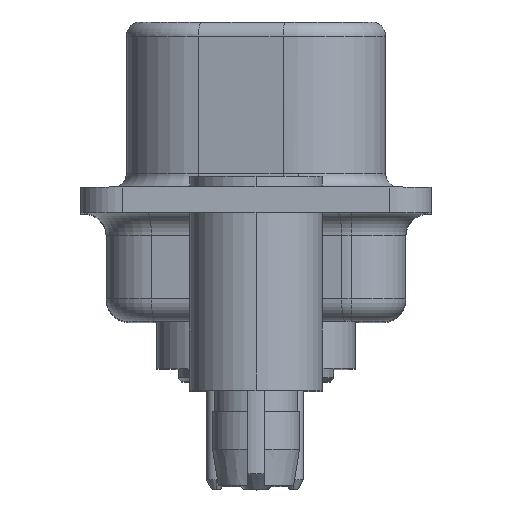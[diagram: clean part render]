
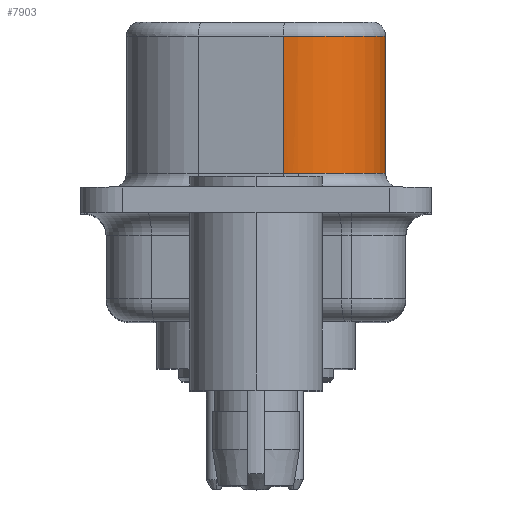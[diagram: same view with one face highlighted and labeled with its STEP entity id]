
A CAD part, top view. The second image highlights one B-rep face of the part: STEP entity #7903.
In plain terms, the highlighted cylindrical face has radius 3.124 mm (diameter 6.248 mm), a partial arc.
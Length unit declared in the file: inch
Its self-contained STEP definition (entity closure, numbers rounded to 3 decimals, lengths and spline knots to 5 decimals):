
#1 = EDGE_CURVE ( 'NONE', #20750, #20748, #10403, .T. ) ;
#6284 = CARTESIAN_POINT ( 'NONE',  ( 0.0595, 0.056, 0.51509 ) ) ;
#6285 = CARTESIAN_POINT ( 'NONE',  ( 0.1825, 0.056, 0.39209 ) ) ;
#7895 = EDGE_CURVE ( 'NONE', #7896, #7897, #16398, .T. ) ;
#7896 = VERTEX_POINT ( 'NONE', #16394 ) ;
#7897 = VERTEX_POINT ( 'NONE', #16393 ) ;
#7903 = ADVANCED_FACE ( 'NONE', ( #16431 ), #16412, .T. ) ;
#7904 = EDGE_LOOP ( 'NONE', ( #7960, #7963, #7965, #7966, #7968 ) ) ;
#7960 = ORIENTED_EDGE ( 'NONE', *, *, #7961, .F. ) ;
#7961 = EDGE_CURVE ( 'NONE', #7962, #20748, #16656, .T. ) ;
#7962 = VERTEX_POINT ( 'NONE', #16652 ) ;
#7963 = ORIENTED_EDGE ( 'NONE', *, *, #7964, .T. ) ;
#7964 = EDGE_CURVE ( 'NONE', #7962, #7896, #16651, .T. ) ;
#7965 = ORIENTED_EDGE ( 'NONE', *, *, #7895, .T. ) ;
#7966 = ORIENTED_EDGE ( 'NONE', *, *, #7967, .T. ) ;
#7967 = EDGE_CURVE ( 'NONE', #7897, #20750, #16645, .T. ) ;
#7968 = ORIENTED_EDGE ( 'NONE', *, *, #1, .T. ) ;
#10399 = DIRECTION ( 'NONE',  ( 0., 0., 1. ) ) ;
#10400 = DIRECTION ( 'NONE',  ( 0., 1., 0. ) ) ;
#10401 = CARTESIAN_POINT ( 'NONE',  ( 0.0595, 0.056, 0.39209 ) ) ;
#10402 = AXIS2_PLACEMENT_3D ( 'NONE', #10401, #10400, #10399 ) ;
#10403 = CIRCLE ( 'NONE', #10402, 0.123 ) ;
#16393 = CARTESIAN_POINT ( 'NONE',  ( 0.03814, 0.056, 0.51323 ) ) ;
#16394 = CARTESIAN_POINT ( 'NONE',  ( 0.03814, 0.249, 0.51323 ) ) ;
#16395 = DIRECTION ( 'NONE',  ( 0., -1., 0. ) ) ;
#16396 = VECTOR ( 'NONE', #16395, 39.37008 ) ;
#16397 = CARTESIAN_POINT ( 'NONE',  ( 0.03814, 0.269, 0.51323 ) ) ;
#16398 = LINE ( 'NONE', #16397, #16396 ) ;
#16412 = CYLINDRICAL_SURFACE ( 'NONE', #16466, 0.123 ) ;
#16413 = CARTESIAN_POINT ( 'NONE',  ( 0.0595, 0.269, 0.39209 ) ) ;
#16431 = FACE_OUTER_BOUND ( 'NONE', #7904, .T. ) ;
#16464 = DIRECTION ( 'NONE',  ( 0., 0., -1. ) ) ;
#16465 = DIRECTION ( 'NONE',  ( 0., -1., 0. ) ) ;
#16466 = AXIS2_PLACEMENT_3D ( 'NONE', #16413, #16465, #16464 ) ;
#16641 = DIRECTION ( 'NONE',  ( 0., 0., 1. ) ) ;
#16642 = DIRECTION ( 'NONE',  ( 0., 1., 0. ) ) ;
#16643 = CARTESIAN_POINT ( 'NONE',  ( 0.0595, 0.056, 0.39209 ) ) ;
#16644 = AXIS2_PLACEMENT_3D ( 'NONE', #16643, #16642, #16641 ) ;
#16645 = CIRCLE ( 'NONE', #16644, 0.123 ) ;
#16647 = DIRECTION ( 'NONE',  ( 0., 0., -1. ) ) ;
#16648 = DIRECTION ( 'NONE',  ( 0., -1., 0. ) ) ;
#16649 = CARTESIAN_POINT ( 'NONE',  ( 0.0595, 0.249, 0.39209 ) ) ;
#16650 = AXIS2_PLACEMENT_3D ( 'NONE', #16649, #16648, #16647 ) ;
#16651 = CIRCLE ( 'NONE', #16650, 0.123 ) ;
#16652 = CARTESIAN_POINT ( 'NONE',  ( 0.1825, 0.249, 0.39209 ) ) ;
#16653 = DIRECTION ( 'NONE',  ( 0., -1., 0. ) ) ;
#16654 = VECTOR ( 'NONE', #16653, 39.37008 ) ;
#16655 = CARTESIAN_POINT ( 'NONE',  ( 0.1825, 0.269, 0.39209 ) ) ;
#16656 = LINE ( 'NONE', #16655, #16654 ) ;
#20748 = VERTEX_POINT ( 'NONE', #6285 ) ;
#20750 = VERTEX_POINT ( 'NONE', #6284 ) ;
